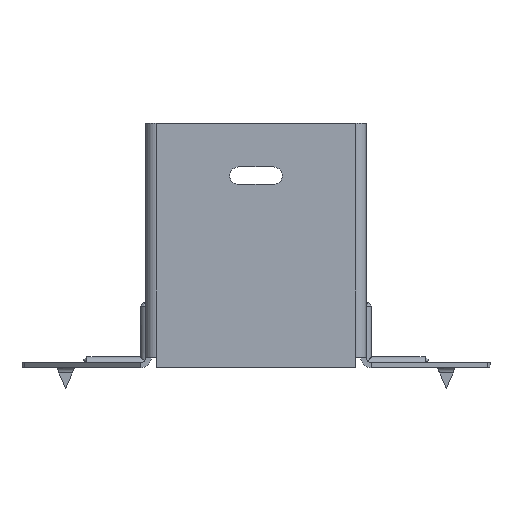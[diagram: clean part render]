
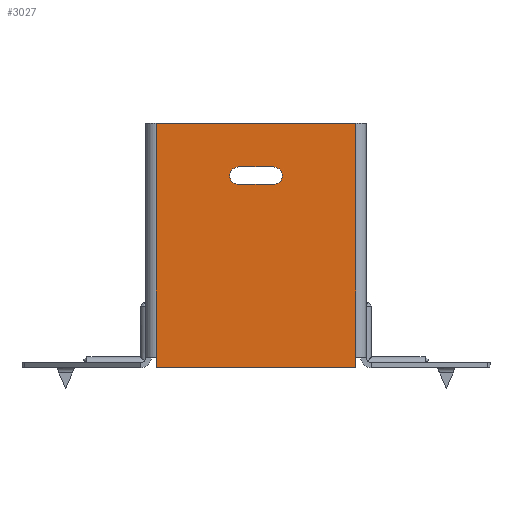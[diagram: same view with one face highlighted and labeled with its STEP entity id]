
A CAD part, front view. The second image highlights one B-rep face of the part: STEP entity #3027.
In plain terms, the highlighted planar face has unit normal (0, -1, 0).
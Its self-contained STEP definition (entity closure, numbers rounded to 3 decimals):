
#119 = CARTESIAN_POINT ( 'NONE',  ( 28.5, 0., -70. ) ) ;
#180 = CARTESIAN_POINT ( 'NONE',  ( -28.5, 0., 0. ) ) ;
#731 = CARTESIAN_POINT ( 'NONE',  ( -30., 0., -70. ) ) ;
#798 = EDGE_LOOP ( 'NONE', ( #7786, #9045, #3483, #1056 ) ) ;
#845 = EDGE_CURVE ( 'NONE', #920, #6551, #1978, .T. ) ;
#893 = CARTESIAN_POINT ( 'NONE',  ( -5., 0., -17.5 ) ) ;
#920 = VERTEX_POINT ( 'NONE', #4978 ) ;
#1056 = ORIENTED_EDGE ( 'NONE', *, *, #11978, .T. ) ;
#1058 = EDGE_CURVE ( 'NONE', #12387, #10480, #7249, .T. ) ;
#1076 = EDGE_CURVE ( 'NONE', #6296, #9253, #3906, .T. ) ;
#1131 = DIRECTION ( 'NONE',  ( 0., 0., -1. ) ) ;
#1176 = CARTESIAN_POINT ( 'NONE',  ( 0., 0., 0. ) ) ;
#1640 = EDGE_CURVE ( 'NONE', #8853, #11134, #2636, .T. ) ;
#1660 = VECTOR ( 'NONE', #1131, 1000. ) ;
#1739 = DIRECTION ( 'NONE',  ( 1., 0., 0. ) ) ;
#1826 = CARTESIAN_POINT ( 'NONE',  ( -5., 0., -15. ) ) ;
#1978 = LINE ( 'NONE', #7124, #9010 ) ;
#2038 = CARTESIAN_POINT ( 'NONE',  ( 28.5, 0., 0. ) ) ;
#2095 = VECTOR ( 'NONE', #4313, 1000. ) ;
#2096 = VECTOR ( 'NONE', #9268, 1000. ) ;
#2204 = DIRECTION ( 'NONE',  ( 0., 1., 0. ) ) ;
#2344 = ORIENTED_EDGE ( 'NONE', *, *, #3460, .T. ) ;
#2636 = LINE ( 'NONE', #3439, #7119 ) ;
#2803 = DIRECTION ( 'NONE',  ( 0., 0., 1. ) ) ;
#3027 = ADVANCED_FACE ( 'NONE', ( #5647, #11234 ), #5240, .F. ) ;
#3029 = VECTOR ( 'NONE', #1739, 1000. ) ;
#3101 = CARTESIAN_POINT ( 'NONE',  ( 28.5, 0., -67. ) ) ;
#3439 = CARTESIAN_POINT ( 'NONE',  ( -5., 0., -12.5 ) ) ;
#3460 = EDGE_CURVE ( 'NONE', #5713, #6296, #4691, .T. ) ;
#3462 = DIRECTION ( 'NONE',  ( 0., 0., 1. ) ) ;
#3483 = ORIENTED_EDGE ( 'NONE', *, *, #1640, .T. ) ;
#3523 = CARTESIAN_POINT ( 'NONE',  ( -28.5, 0., 0. ) ) ;
#3906 = LINE ( 'NONE', #180, #1660 ) ;
#4055 = VECTOR ( 'NONE', #9667, 1000. ) ;
#4096 = DIRECTION ( 'NONE',  ( -1., 0., 0. ) ) ;
#4137 = CARTESIAN_POINT ( 'NONE',  ( 5., 0., -12.5 ) ) ;
#4313 = DIRECTION ( 'NONE',  ( 0., 0., 1. ) ) ;
#4658 = CARTESIAN_POINT ( 'NONE',  ( 28.5, 0., -70. ) ) ;
#4663 = AXIS2_PLACEMENT_3D ( 'NONE', #1826, #6908, #2803 ) ;
#4691 = LINE ( 'NONE', #3523, #4055 ) ;
#4768 = ORIENTED_EDGE ( 'NONE', *, *, #1076, .T. ) ;
#4978 = CARTESIAN_POINT ( 'NONE',  ( 5., 0., -17.5 ) ) ;
#5070 = ORIENTED_EDGE ( 'NONE', *, *, #6709, .T. ) ;
#5157 = CARTESIAN_POINT ( 'NONE',  ( 5., 0., -15. ) ) ;
#5240 = PLANE ( 'NONE',  #9873 ) ;
#5347 = AXIS2_PLACEMENT_3D ( 'NONE', #5157, #8068, #8160 ) ;
#5647 = FACE_BOUND ( 'NONE', #798, .T. ) ;
#5713 = VERTEX_POINT ( 'NONE', #12249 ) ;
#5957 = CARTESIAN_POINT ( 'NONE',  ( -28.5, 0., -67. ) ) ;
#6114 = ORIENTED_EDGE ( 'NONE', *, *, #1058, .T. ) ;
#6296 = VERTEX_POINT ( 'NONE', #5957 ) ;
#6438 = EDGE_LOOP ( 'NONE', ( #2344, #4768, #6493, #5070, #6114, #13177 ) ) ;
#6493 = ORIENTED_EDGE ( 'NONE', *, *, #11916, .F. ) ;
#6551 = VERTEX_POINT ( 'NONE', #893 ) ;
#6709 = EDGE_CURVE ( 'NONE', #8887, #12387, #12627, .T. ) ;
#6908 = DIRECTION ( 'NONE',  ( 0., 1., 0. ) ) ;
#7119 = VECTOR ( 'NONE', #10572, 1000. ) ;
#7124 = CARTESIAN_POINT ( 'NONE',  ( -5., 0., -17.5 ) ) ;
#7214 = CIRCLE ( 'NONE', #5347, 2.5 ) ;
#7249 = LINE ( 'NONE', #11309, #11878 ) ;
#7786 = ORIENTED_EDGE ( 'NONE', *, *, #845, .T. ) ;
#8068 = DIRECTION ( 'NONE',  ( 0., 1., 0. ) ) ;
#8140 = CIRCLE ( 'NONE', #4663, 2.5 ) ;
#8160 = DIRECTION ( 'NONE',  ( 0., 0., 1. ) ) ;
#8334 = LINE ( 'NONE', #731, #2096 ) ;
#8783 = CARTESIAN_POINT ( 'NONE',  ( -5., 0., -12.5 ) ) ;
#8853 = VERTEX_POINT ( 'NONE', #8783 ) ;
#8861 = EDGE_CURVE ( 'NONE', #5713, #10480, #9252, .T. ) ;
#8887 = VERTEX_POINT ( 'NONE', #4658 ) ;
#8965 = EDGE_CURVE ( 'NONE', #6551, #8853, #8140, .T. ) ;
#9010 = VECTOR ( 'NONE', #4096, 1000. ) ;
#9045 = ORIENTED_EDGE ( 'NONE', *, *, #8965, .T. ) ;
#9252 = LINE ( 'NONE', #11905, #3029 ) ;
#9253 = VERTEX_POINT ( 'NONE', #9528 ) ;
#9268 = DIRECTION ( 'NONE',  ( -1., 0., 0. ) ) ;
#9528 = CARTESIAN_POINT ( 'NONE',  ( -28.5, 0., -70. ) ) ;
#9667 = DIRECTION ( 'NONE',  ( 0., 0., -1. ) ) ;
#9873 = AXIS2_PLACEMENT_3D ( 'NONE', #1176, #2204, #3462 ) ;
#10480 = VERTEX_POINT ( 'NONE', #2038 ) ;
#10572 = DIRECTION ( 'NONE',  ( 1., 0., 0. ) ) ;
#11134 = VERTEX_POINT ( 'NONE', #4137 ) ;
#11234 = FACE_OUTER_BOUND ( 'NONE', #6438, .T. ) ;
#11309 = CARTESIAN_POINT ( 'NONE',  ( 28.5, 0., -70. ) ) ;
#11399 = DIRECTION ( 'NONE',  ( 0., 0., 1. ) ) ;
#11878 = VECTOR ( 'NONE', #11399, 1000. ) ;
#11905 = CARTESIAN_POINT ( 'NONE',  ( -30., 0., 0. ) ) ;
#11916 = EDGE_CURVE ( 'NONE', #8887, #9253, #8334, .T. ) ;
#11978 = EDGE_CURVE ( 'NONE', #11134, #920, #7214, .T. ) ;
#12249 = CARTESIAN_POINT ( 'NONE',  ( -28.5, 0., 0. ) ) ;
#12387 = VERTEX_POINT ( 'NONE', #3101 ) ;
#12627 = LINE ( 'NONE', #119, #2095 ) ;
#13177 = ORIENTED_EDGE ( 'NONE', *, *, #8861, .F. ) ;
